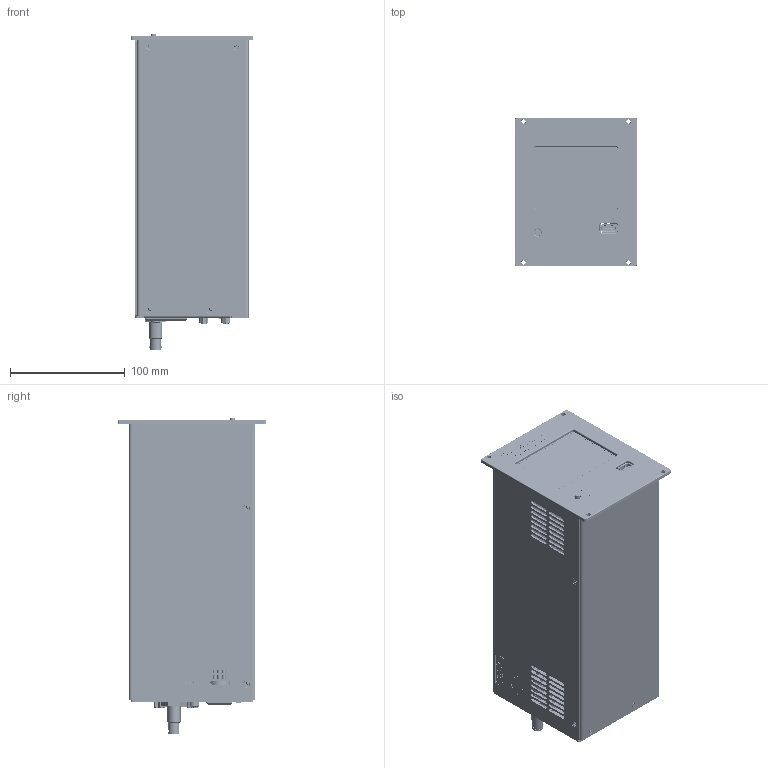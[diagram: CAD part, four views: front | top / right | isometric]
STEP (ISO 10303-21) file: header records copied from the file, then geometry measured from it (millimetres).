
FILE_DESCRIPTION (( 'STEP AP203' ), '1' );
FILE_NAME ('IPCMini KING 24 OUTSIDE.STEP', '2017-07-25T09:20:50', ( '' ), ( '' ), 'SwSTEP 2.0', 'SolidWorks 2017', '' );
FILE_SCHEMA (( 'CONFIG_CONTROL_DESIGN' ));
Products named in the file (1): IPCMini KING 24 OUTSIDE
Bounding box: 106.4 x 129.4 x 274.8 mm (x, y, z)
Volume: 341803.1 mm3; surface area: 418468.5 mm2
Topology: 57 solids, 60 shells, 13874 faces, 37703 edges, 24822 vertices
Faces by surface type: plane 8732, cylinder 2394, bspline 2213, cone 371, torus 107, sphere 57
Entity records: 537378 total; most frequent: CARTESIAN_POINT 200436, ORIENTED_EDGE 75320, DIRECTION 60276, EDGE_CURVE 37660, VECTOR 27384, LINE 27384, VERTEX_POINT 24822, AXIS2_PLACEMENT_3D 16446
